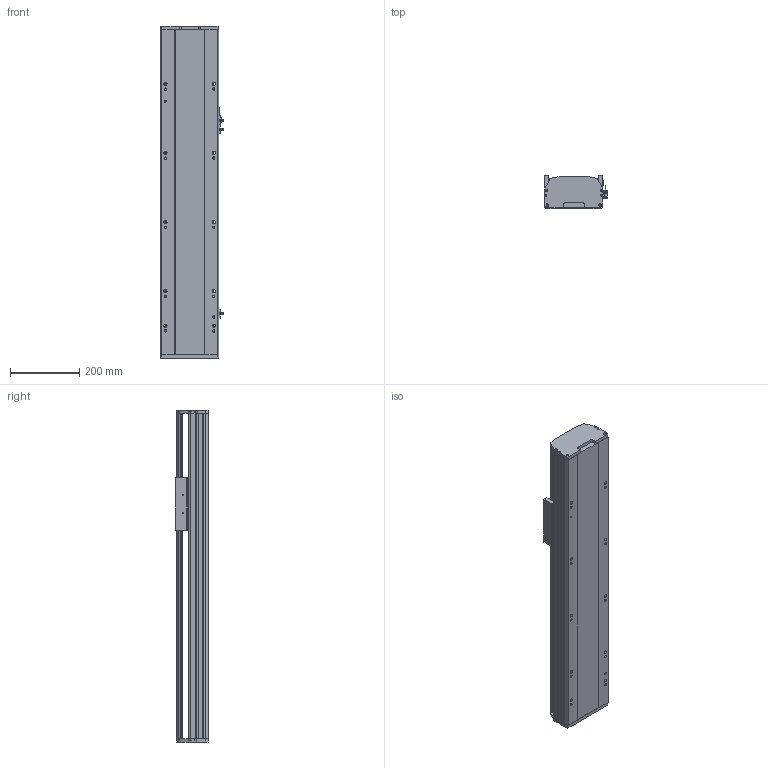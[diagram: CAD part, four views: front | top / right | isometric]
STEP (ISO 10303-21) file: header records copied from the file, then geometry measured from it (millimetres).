
FILE_DESCRIPTION (( 'STEP AP214' ), '1' );
FILE_NAME ('ZTH17-550-M-P40.STEP', '2022-09-04T02:51:25', ( '' ), ( '' ), 'SwSTEP 2.0', 'SolidWorks 2020', '' );
FILE_SCHEMA (( 'AUTOMOTIVE_DESIGN' ));
Length unit declared in the file: millimetre
Products named in the file (5): ZTH17-550-M-P40; 葩璃 QTH17-M-002 奻裔MZ-170-02^ZTH17-M-P40; 葩璃 QTH17-M-001 菁釱MZ-170-01^ZTH17-M-P40; 葩璃 QTH17-BC-005 賑釱MZ-170-03 ^ZTH17-M-P40_SFA20; 葩璃 pm-t65-672^ZTH17-M-P40
Assembly tree (6 placements, depth 2):
  ZTH17-550-M-P40
    葩璃 QTH17-M-001 菁釱MZ-170-01^ZTH17-M-P40
    葩璃 QTH17-M-002 奻裔MZ-170-02^ZTH17-M-P40
    葩璃 QTH17-BC-005 賑釱MZ-170-03 ^ZTH17-M-P40_SFA20
    葩璃 pm-t65-672^ZTH17-M-P40  x3
Bounding box: 183.7 x 97 x 961 mm (x, y, z)
Volume: 9570261.8 mm3; surface area: 969305 mm2
Topology: 10 solids, 10 shells, 832 faces, 2215 edges, 1426 vertices
Faces by surface type: plane 512, cylinder 268, cone 52
Entity records: 19559 total; most frequent: DIRECTION 3243, CARTESIAN_POINT 3132, ORIENTED_EDGE 3050, EDGE_CURVE 1525, AXIS2_PLACEMENT_3D 1113, LINE 1017, VECTOR 1017, VERTEX_POINT 1002
